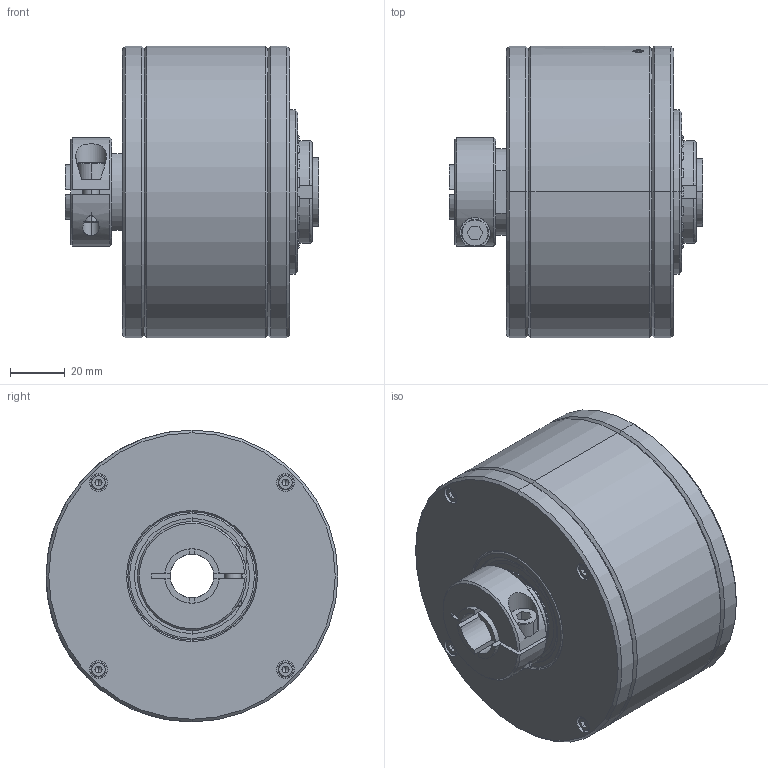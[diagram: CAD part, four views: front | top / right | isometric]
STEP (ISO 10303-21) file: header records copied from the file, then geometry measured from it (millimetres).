
FILE_DESCRIPTION (( 'STEP AP214' ), '1' );
FILE_NAME ('83 Z 0001 A 000 - Typ 535 KH.STEP', '2025-10-16T11:15:59', ( '' ), ( '' ), 'SwSTEP 2.0', 'SolidWorks 2025', '' );
FILE_SCHEMA (( 'AUTOMOTIVE_DESIGN' ));
Length unit declared in the file: millimetre
Products named in the file (1): 83 Z 0001 A 000  -  Typ 535 KH
Bounding box: 93 x 107 x 107 mm (x, y, z)
Volume: 554232.3 mm3; surface area: 93548.2 mm2
Topology: 40 solids, 40 shells, 902 faces, 2159 edges, 1297 vertices
Faces by surface type: plane 315, bspline 242, cylinder 176, cone 153, torus 16
Entity records: 34778 total; most frequent: CARTESIAN_POINT 15101, ORIENTED_EDGE 4106, DIRECTION 3644, EDGE_CURVE 2053, AXIS2_PLACEMENT_3D 1341, VERTEX_POINT 1297, EDGE_LOOP 996, VECTOR 962
